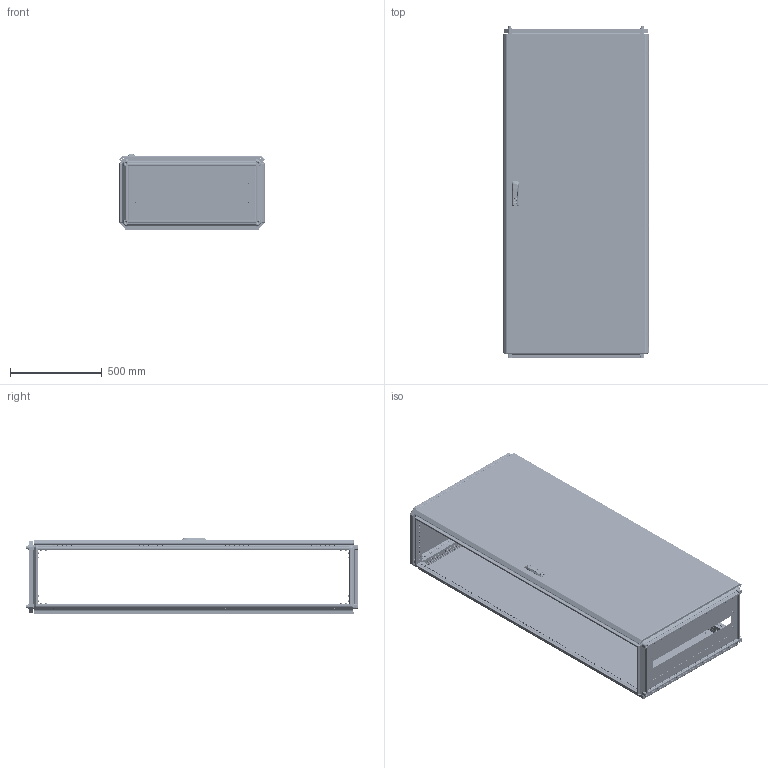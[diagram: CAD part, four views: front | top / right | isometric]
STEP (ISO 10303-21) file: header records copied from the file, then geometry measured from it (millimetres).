
FILE_DESCRIPTION (( 'STEP AP203' ), '1' );
FILE_NAME ('MA1.000.080418.10.00 AleSta1884 Øêàô AleSta 800õ400õ1800.STEP', '2024-08-23T08:12:54', ( '' ), ( '' ), 'SwSTEP 2.0', 'SolidWorks 2021', '' );
FILE_SCHEMA (( 'CONFIG_CONTROL_DESIGN' ));
Length unit declared in the file: millimetre
Products named in the file (50): Âèíò ðåçüáîâûäàâëèâàþùèé Ì6õ12 DIN 7500E_Œ6å10; MS463-2-3(1); MA1.101.060620.20.02 Çàêðûòèå íèæíåé ïàíåëè 600õ600_800å400; MA1.200.060620.10.00 AleSta-PR206  Ïàíåëü çàäíÿÿ, äëÿ øêàôîâ ALESTA, 2000 x 600_1800å800; Âèíò ñàìîíàðåçàþùèé ñ ïîòàéíîé ãîëîâêîé Ì5x14 DIN 7500 M TORX, êëàññ ïðî÷íîñòè 8.8, îöèíêîâàííàÿ ñòàëü_Œ5å12; ﾘ琺矜 65ﾃ 019 ﾃﾎﾑﾒ 6402-70_12; 諘蜱齁罻 022 瀁錒瀔隮; êðåïëåíèå_êðóãëîé_òÿãè_RG1020-1.stp; MA1.101.060620.10.00 Êðûøà 600x600_800å400; Ïåòëÿ íà äâåðü ï-îáðàçíàÿ; Âèíò ñ âí. øåñòèãðàííèêîì M12 DIN912_•30; MA1.200.060620.31.03 Ðåéêà íà äâåðü ãîðèçîíòàëüíàÿ Ø = 600_˜=800; MA1.200.060620.30.00 AleSta-D20M600 Äâåðü ñïëîøíàÿ äëÿ øêàôîâ ALESTA ÂõØ 2000õ600_1800å800; Íàâåñêà íà êîðïóñ ïîä êëåïêó; MA1.200.060620.31.05 Óãëîâîé óïîð äâåðíîé òÿãè; MA1.101.060620.00.02 Ïðîôèëü ïîïåðå÷íûé ñâàðíîé_02 L=698 (˜=800) ; ﾇﾀﾊﾋﾅﾏﾊﾀ ﾃﾀﾅﾗﾍﾀﾟ ﾘﾅﾑﾒﾈﾃﾐﾀﾍﾍﾀﾟ ﾑ ﾓﾌﾅﾍﾜﾘﾅﾍﾍﾛﾌ ﾁﾎﾐﾒﾎﾌ M4 X 11 (0.5-2.5 ﾌﾌ) HEX U-S ﾖﾈﾍﾊ; Ïðîáêà ïëàñòèêîâàÿ óíèâåðñàëüíàÿ ïîä îòâåðñòèå 4,5 ìì, ñåðèÿ ST, öâåò áåñöâåòíûé – ST4,5; MA1.200.060620.31.00 Äâåðü ñïëîøíàÿ äëÿ øêàôîâ ALESTA ÂõØ 2000õ600_1800å800; MA1.101.060620.20.01 Ïîëîòíî íèæíåé ïàíåëè 600õ600_800å400; Øàéáà ñòîïîðíàÿ ñ íàðóæíûìè çóáöàìè SCHNORR, òèï VS öèíêîâûå õëîïüÿ Ì6 O6,4 ART 88121_Œ6; Îñü ïåòëè 4õ52_‚¨­â A.M4x0,5x40 ƒŽ‘’ 11644-75; MA1.101.060620.10.01 Ïîëîòíî êðûøè 600õ600_800x400; MA1.101.060620.00.00 AleSta-RB66 Êîìïëåêò êðûøà è îñíîâàíèå_  800å400; MA1.102.060620.00.00 AleSta-VG2000 Ñòîéêè âåðòèêàëüíûå, Â=2000ìì  (4øò)_  800å400; MA1.200.060620.31.04 ðèãåëü çàìêà äâåðè; Áîëò øåñòèãðàííûé Ì5õ12 DIN 933, êëàññ ïðî÷íîñòè 8.8, îöèíêîâàííàÿ ñòàëü; Øïèëüêà Ì6õ12_˜¯¨«ìª  Œ6å20; äåðæàòåëü_êðóãëîé_òÿãèRG002-RG1010-2-i-RG1010-3-.stp; Øïèëüêà Ì6õ12_˜¯¨«ìª  Œ6å12; 7380-2 ISO Âèíòû ñ ïîëóêðóãëîé ãîëîâêîé ñ ôëàíöåì ñ âíóòðåííèì øåñòèãðàííèêîì Ì4õ10; Âèíò_ðåçüáîâûäàâëèâàþùèé_Ì5õ12_DIN 7500E_Œ5å12; Ãàéêà ñàìîêîíòðÿùàÿñÿ ñ íåéëîíîâîé âñòàâêîé Ì6 DIN 985, êëàññ ïðî÷íîñòè 8, îöèíêîâàííàÿ ñòàëü_Œ6; MA1.101.060620.20.00 Íèæíÿÿ ïàíåëü 600õ600_800å400; MA1.200.060620.31.01 Ïîëîòíî äâåðè ñïëîøíîé 2000õ600_1800å800; Óïëîòíèòåëü ïàíåëè íèæíåé_800å400; MA1.100.060620.00.01 Ñîåäèíèòåëü óãëîâîé_00; MA1.200.060620.31.02 Ðåéêà íà äâåðü âåðòèêàëüíàÿ Â = 2000_‚=1800; Ãàéêà ñàìîêîíòðÿùàÿñÿ ñ íåéëîíîâîé âñòàâêîé Ì6 DIN 985, êëàññ ïðî÷íîñòè 8, îöèíêîâàííàÿ ñòàëü_Œ5; MA1.200.060620.11.01 Ïîëîòíî çàäíåé ïàíåëè 2000õ600_1800å800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
Assembly tree (337 placements, depth 4):
  Ïðîáêà ïëàñòèêîâàÿ óíèâåðñàëüíàÿ ïîä îòâåðñòèå 4,5 ìì, ñåðèÿ ST, öâåò áåñöâåòíûé – ST4,5
  MA1.000.080418.10.00 AleSta1884 Øêàô AleSta 800õ400õ1800
    MA1.101.060620.00.00 AleSta-RB66 Êîìïëåêò êðûøà è îñíîâàíèå_  800å400
      MA1.101.060620.00.02 Ïðîôèëü ïîïåðå÷íûé ñâàðíîé_00 L=298 (˜=400)  x4
      MA1.101.060620.00.02 Ïðîôèëü ïîïåðå÷íûé ñâàðíîé_02 L=698 (˜=800)   x4
      MA1.101.060620.10.00 Êðûøà 600x600_800å400
        MA1.101.060620.10.01 Ïîëîòíî êðûøè 600õ600_800x400
        Øïèëüêà Ì6õ12_˜¯¨«ìª  Œ6å12  x4
        Óïëîòíèòåëü ïàíåëè íèæíåé_800å400
      MA1.101.060620.20.00 Íèæíÿÿ ïàíåëü 600õ600_800å400
        MA1.101.060620.20.01 Ïîëîòíî íèæíåé ïàíåëè 600õ600_800å400
        ﾇﾀﾊﾋﾅﾏﾊﾀ ﾃﾀﾅﾗﾍﾀﾟ ﾘﾅﾑﾒﾈﾃﾐﾀﾍﾍﾀﾟ ﾑ ﾓﾌﾅﾍﾜﾘﾅﾍﾍﾛﾌ ﾁﾎﾐﾒﾎﾌ M4 X 11 (0.5-2.5 ﾌﾌ) HEX U-S ﾖﾈﾍﾊ  x4
        MA1.101.060620.20.02 Çàêðûòèå íèæíåé ïàíåëè 600õ600_800å400  x2
        7380-2 ISO Âèíòû ñ ïîëóêðóãëîé ãîëîâêîé ñ ôëàíöåì ñ âíóòðåííèì øåñòèãðàííèêîì Ì4õ10  x4
      Âèíò_ðåçüáîâûäàâëèâàþùèé_Ì5õ12_DIN 7500E_Œ5å12  x8
      MA1.100.060620.00.01 Ñîåäèíèòåëü óãëîâîé_00  x8
      Âèíò ñ âí. øåñòèãðàííèêîì M12 DIN912_•30  x4
      Âèíò ðåçüáîâûäàâëèâàþùèé Ì6õ12 DIN 7500E_Œ6å10  x96
      ﾘ琺矜 01.019 ﾃﾎﾑﾒ11371-78_12  x4
      ﾘ琺矜 65ﾃ 019 ﾃﾎﾑﾒ 6402-70_12  x4
      Øàéáà ñòîïîðíàÿ ñ íàðóæíûìè çóáöàìè SCHNORR, òèï VS öèíêîâûå õëîïüÿ Ì6 O6,4 ART 88121_Œ6  x80
    MA1.102.060620.00.00 AleSta-VG2000 Ñòîéêè âåðòèêàëüíûå, Â=2000ìì  (4øò)_  800å400
      MA1.102.060620.00.01 Ïðîôèëü âåðòèêàëüíûé ñâàðíîé_03 L=1698 (‚=1800)  x4
    MA1.200.060620.10.00 AleSta-PR206  Ïàíåëü çàäíÿÿ, äëÿ øêàôîâ ALESTA, 2000 x 600_1800å800
      MA1.200.060620.11.00 Ïàíåëü çàäíÿÿ, äëÿ øêàôîâ AleSta, 2000x600_1800å800
        MA1.200.060620.11.01 Ïîëîòíî çàäíåé ïàíåëè 2000õ600_1800å800
        Óïëîòíèòåëü ïàíåëè íèæíåé_ ‚=1800
        Øïèëüêà Ì6õ12_˜¯¨«ìª  Œ6å12  x4
      Âèíò ñàìîíàðåçàþùèé ñ ïîòàéíîé ãîëîâêîé Ì5x14 DIN 7500 M TORX, êëàññ ïðî÷íîñòè 8.8, îöèíêîâàííàÿ ñòàëü_Œ5å14  x8
    MA1.200.060620.30.00 AleSta-D20M600 Äâåðü ñïëîøíàÿ äëÿ øêàôîâ ALESTA ÂõØ 2000õ600_1800å800
      MA1.200.060620.31.00 Äâåðü ñïëîøíàÿ äëÿ øêàôîâ ALESTA ÂõØ 2000õ600_1800å800
        MA1.200.060620.31.01 Ïîëîòíî äâåðè ñïëîøíîé 2000õ600_1800å800
        Óïëîòíèòåëü ïàíåëè íèæíåé_ ‚=1800
        Øïèëüêà Ì6õ12_˜¯¨«ìª  Œ6å20  x16
        Øïèëüêà Ì6õ12_˜¯¨«ìª  Œ6å16  x4
        Ïåòëÿ íà äâåðü ï-îáðàçíàÿ  x4
      MA1.200.060620.31.03 Ðåéêà íà äâåðü ãîðèçîíòàëüíàÿ Ø = 600_˜=800  x2
      諘蜱齁罻 022 瀁錒瀔隮  x4
      MA1.200.060620.31.02 Ðåéêà íà äâåðü âåðòèêàëüíàÿ Â = 2000_‚=1800  x2
      äåðæàòåëü_êðóãëîé_òÿãèRG002-RG1010-2-i-RG1010-3-.stp  x2
      òÿãà_lg001-2.STEP_‚ =1800  x2
      êðåïëåíèå_êðóãëîé_òÿãè_RG1020-1.stp  x2
      MS463-2-3(1)
      Ãàéêà ñàìîêîíòðÿùàÿñÿ ñ íåéëîíîâîé âñòàâêîé Ì6 DIN 985, êëàññ ïðî÷íîñòè 8, îöèíêîâàííàÿ ñòàëü_Œ6  x16
      Ãàéêà ñàìîêîíòðÿùàÿñÿ ñ íåéëîíîâîé âñòàâêîé Ì6 DIN 985, êëàññ ïðî÷íîñòè 8, îöèíêîâàííàÿ ñòàëü_Œ5  x2
      Áîëò øåñòèãðàííûé Ì5õ12 DIN 933, êëàññ ïðî÷íîñòè 8.8, îöèíêîâàííàÿ ñòàëü  x2
      MA1.200.060620.31.04 ðèãåëü çàìêà äâåðè
      MA1.200.060620.31.05 Óãëîâîé óïîð äâåðíîé òÿãè  x2
      Âèíò_ðåçüáîâûäàâëèâàþùèé_Ì5õ12_DIN 7500E_00  x2
      Íàâåñêà íà êîðïóñ ïîä êëåïêó  x4
      Îñü ïåòëè 4õ52_‚¨­â A.M4x0,5x40 ƒŽ‘’ 11644-75  x4
      Âèíò ñàìîíàðåçàþùèé ñ ïîòàéíîé ãîëîâêîé Ì5x14 DIN 7500 M TORX, êëàññ ïðî÷íîñòè 8.8, îöèíêîâàííàÿ ñòàëü_Œ5å12  x8
Bounding box: 792 x 1810.9 x 416.8 mm (x, y, z)
Volume: 9404692.4 mm3; surface area: 12055679.6 mm2
Topology: 364 solids, 378 shells, 23435 faces, 60341 edges, 37736 vertices
Faces by surface type: plane 13993, cylinder 6749, bspline 921, cone 845, torus 829, sphere 98
Entity records: 246536 total; most frequent: CARTESIAN_POINT 79465, ORIENTED_EDGE 31922, DIRECTION 31424, EDGE_CURVE 15978, AXIS2_PLACEMENT_3D 10800, VERTEX_POINT 9949, LINE 9824, VECTOR 9824
